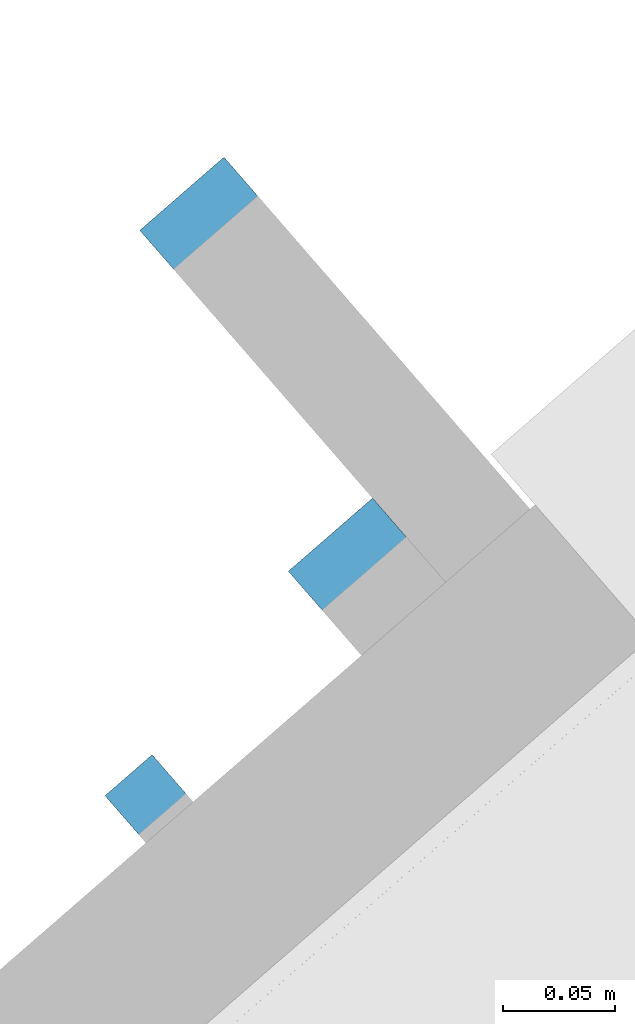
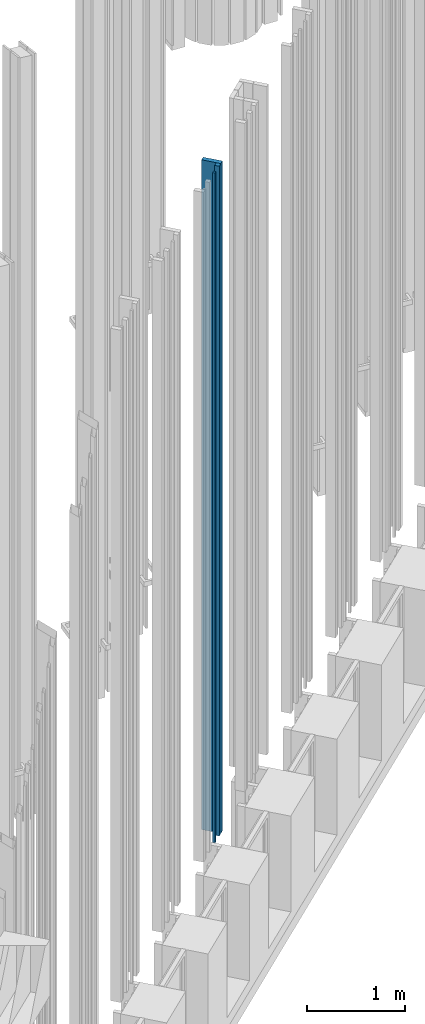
# One storey, part 235 of 390: 3 walls.
"""IFC2X3 building model written with IfcOpenShell, lengths in millimetres."""

import ifcopenshell
import ifcopenshell.guid

model = None  # the IFC model being written
_history = None  # IfcOwnerHistory: only IFC2X3 demands one
_inside = {}  # id of a spatial element -> (the spatial element, [elements in it])
_under = {}  # id of a project, library or spatial element -> (it, [spatial elements below it])
_declared = {}  # id of a project -> (the project, [libraries it declares])
_typed = {}  # id of a type object -> (the type object, [elements of that type])
_made_of = {}  # id of a material, layer set ... -> (it, [elements and type objects made of it])


def new_model(schema):
    """Start an empty IFC model of exactly this schema.

    Asked for "IFC4X3", IfcOpenShell would pick the latest addendum, in which some entities
    have other attributes; the version numbers below select the first issue.
    IFC2X3 requires an IfcOwnerHistory on every rooted entity: one is made here for all.
    """
    global model, _history
    if schema == "IFC4X3":
        model = ifcopenshell.file(schema_version=(4, 3, 0, 0))
    else:
        model = ifcopenshell.file(schema=schema)
    _inside.clear()
    _under.clear()
    _declared.clear()
    _typed.clear()
    _made_of.clear()
    _history = None
    if model.schema == "IFC2X3":
        org = make("IfcOrganization", Name="unknown")
        user = make(
            "IfcPersonAndOrganization",
            ThePerson=make("IfcPerson", FamilyName="unknown"),
            TheOrganization=org,
        )
        app = make(
            "IfcApplication",
            ApplicationDeveloper=org,
            Version="unknown",
            ApplicationFullName="unknown",
            ApplicationIdentifier="unknown",
        )
        _history = make(
            "IfcOwnerHistory",
            OwningUser=user,
            OwningApplication=app,
            ChangeAction="ADDED",
            CreationDate=0,
        )
    return model


def make(cls, **values):
    """One entity of the class cls with the attributes given. An attribute that is None is left unset."""
    return model.create_entity(
        cls, **{name: value for name, value in values.items() if value is not None}
    )


def entity(cls, *values):
    """Any entity or typed value of the class cls, its attributes in the order of the schema. None: left unset."""
    e = model.create_entity(cls)
    for i, value in enumerate(values):
        if value is not None:
            e[i] = value
    return e


def rooted(cls, **values):
    """An entity with a GlobalId (a new one), such as an element, a storey or a relation."""
    return make(cls, GlobalId=ifcopenshell.guid.new(), OwnerHistory=_history, **values)


def si_unit(unit_type, name, prefix=None):
    """IfcSIUnit, for example si_unit("LENGTHUNIT", "METRE", prefix="MILLI")."""
    return make("IfcSIUnit", UnitType=unit_type, Prefix=prefix, Name=name)


def converted_unit(unit_type, name, factor, base, dimensions=None, offset=None):
    """IfcConversionBasedUnit, such as the inch: factor (a typed value) times the base unit."""
    return make(
        "IfcConversionBasedUnit"
        if offset is None
        else "IfcConversionBasedUnitWithOffset",
        ConversionOffset=offset,
        Dimensions=None
        if dimensions is None
        else entity("IfcDimensionalExponents", *dimensions),
        UnitType=unit_type,
        Name=name,
        ConversionFactor=make(
            "IfcMeasureWithUnit", ValueComponent=factor, UnitComponent=base
        ),
    )


def derived_unit(unit_type, elements):
    """IfcDerivedUnit: a product of units, each with its exponent."""
    return make(
        "IfcDerivedUnit",
        Elements=[
            make("IfcDerivedUnitElement", Unit=unit, Exponent=power)
            for unit, power in elements
        ],
        UnitType=unit_type,
    )


def money_unit(currency):
    """IfcMonetaryUnit."""
    return make("IfcMonetaryUnit", Currency=currency)


def assignment(units):
    """IfcUnitAssignment: the units of a project."""
    return None if units is None else make("IfcUnitAssignment", Units=units)


def point(xyz):
    """IfcCartesianPoint."""
    return None if xyz is None else make("IfcCartesianPoint", Coordinates=xyz)


def direction(xyz):
    """IfcDirection."""
    return None if xyz is None else make("IfcDirection", DirectionRatios=xyz)


def frame(location, z_axis=None, x_axis=None):
    """IfcAxis2Placement3D, a coordinate frame: its origin and axes. An axis left out is left unset."""
    return make(
        "IfcAxis2Placement3D",
        Location=point(location),
        Axis=direction(z_axis),
        RefDirection=direction(x_axis),
    )


def origin_with_axes():
    """The frame at (0, 0, 0) with the z axis (0, 0, 1) and the x axis (1, 0, 0) written out."""
    return frame((0.0, 0.0, 0.0), z_axis=(0.0, 0.0, 1.0), x_axis=(1.0, 0.0, 0.0))


def place(relative_to, where):
    """IfcLocalPlacement: puts the frame where relative to a parent placement (None: the world)."""
    return make(
        "IfcLocalPlacement", PlacementRelTo=relative_to, RelativePlacement=where
    )


def context(
    kind, dimensions, precision=None, world=None, true_north=None, identifier=None
):
    """IfcGeometricRepresentationContext, for example the 3D "Model" context."""
    return make(
        "IfcGeometricRepresentationContext",
        ContextIdentifier=identifier,
        ContextType=kind,
        CoordinateSpaceDimension=dimensions,
        Precision=precision,
        WorldCoordinateSystem=world,
        TrueNorth=true_north,
    )


def subcontext(parent, identifier, kind, view, scale=None):
    """IfcGeometricRepresentationSubContext, for example "Body" below "Model"."""
    return make(
        "IfcGeometricRepresentationSubContext",
        ContextIdentifier=identifier,
        ContextType=kind,
        ParentContext=parent,
        TargetScale=scale,
        TargetView=view,
    )


def project(units=None, contexts=None):
    """IfcProject with its units and contexts."""
    return rooted(
        "IfcProject",
        Name="project",
        RepresentationContexts=contexts,
        UnitsInContext=assignment(units),
    )


def spatial(cls, under=None, at=None, **own):
    """A site, building, storey or space (cls), placed at a placement, below another one or the project."""
    s = rooted(cls, ObjectPlacement=at, **own)
    if under is not None:
        _under.setdefault(under.id(), (under, []))[1].append(s)
    return s


def faces_of(points, faces, orient=None, outer=None):
    """IfcFace entities. A face is a list of loops; a loop is a list of indices into points, from 0.

    orient and outer hold one flag for each loop. By default every Orientation is true, the
    first loop of a face is its IfcFaceOuterBound and the others are IfcFaceBound.
    """
    made = []
    for i, loops in enumerate(faces):
        bounds = []
        for j, loop in enumerate(loops):
            is_outer = j == 0 if outer is None else outer[i][j]
            bounds.append(
                make(
                    "IfcFaceOuterBound" if is_outer else "IfcFaceBound",
                    Bound=make("IfcPolyLoop", Polygon=[points[k] for k in loop]),
                    Orientation=True if orient is None else orient[i][j],
                )
            )
        made.append(make("IfcFace", Bounds=bounds))
    return made


def faceted_brep(points, faces, orient=None, outer=None, voids=None):
    """IfcFacetedBrep: a solid bounded by flat faces; with voids (closed shells), ...WithVoids."""
    shared = [point(p) for p in points]
    hull = make("IfcClosedShell", CfsFaces=faces_of(shared, faces, orient, outer))
    if voids is None:
        return make("IfcFacetedBrep", Outer=hull)
    return make(
        "IfcFacetedBrepWithVoids",
        Outer=hull,
        Voids=[
            make(cls, CfsFaces=faces_of(shared, fs, o, b)) for cls, fs, o, b in voids
        ],
    )


def shape(context_of_items, identifier, shape_type, items):
    """IfcShapeRepresentation: the items that make up one representation, for example the "Body"."""
    return make(
        "IfcShapeRepresentation",
        ContextOfItems=context_of_items,
        RepresentationIdentifier=identifier,
        RepresentationType=shape_type,
        Items=items,
    )


def material(Name=None, Category=None):
    """IfcMaterial."""
    return make("IfcMaterial", Name=Name, Category=Category)


def made_of(thing, what):
    """Note that an element or type object is made of a material, layer set ...; save() writes the relation."""
    if what is not None:
        _made_of.setdefault(what.id(), (what, []))[1].append(thing)
    return thing


def type_object(cls, material=None, **own):
    """A type object (cls), such as IfcWallType, which elements share."""
    return made_of(rooted(cls, **own), material)


def element(
    cls,
    number,
    at=None,
    inside=None,
    cuts=None,
    type_object=None,
    material=None,
    context=None,
    identifier="Body",
    shape_type=None,
    held_by="IfcProductDefinitionShape",
    body=None,
    shapes=None,
    **own,
):
    """One element of the class cls, such as IfcWall. Its Tag is "e" and its number.

    at: its placement. inside: the storey or other place that contains it. cuts: it is an
    opening in that element (IfcRelVoidsElement). A single representation is given by context,
    identifier, shape_type and body (its items); several are given by shapes. held_by: the class
    of the entity that holds the representations. save() writes the other relations.
    """
    e = rooted(cls, Tag="e%d" % number, ObjectPlacement=at, **own)
    if body is not None:
        shapes = [shape(context, identifier, shape_type, body)]
    if shapes is not None:
        e.Representation = make(held_by, Representations=shapes)
    if inside is not None:
        _inside.setdefault(inside.id(), (inside, []))[1].append(e)
    if cuts is not None:
        rooted(
            "IfcRelVoidsElement", RelatingBuildingElement=cuts, RelatedOpeningElement=e
        )
    if type_object is not None:
        _typed.setdefault(type_object.id(), (type_object, []))[1].append(e)
    return made_of(e, material)


def aggregate(whole, parts):
    """IfcRelAggregates: a whole, such as a stair, and the parts it consists of."""
    return rooted("IfcRelAggregates", RelatingObject=whole, RelatedObjects=parts)


def save(model, path):
    """Write the relations noted so far, then the file.

    IfcRelAggregates (storeys below a building ...), IfcRelContainedInSpatialStructure (elements
    in a storey), IfcRelDefinesByType, IfcRelAssociatesMaterial and IfcRelDeclares: one each for
    every whole, place, type object, material and project.
    """
    for whole, parts in _under.values():
        aggregate(whole, parts)
    for where, things in _inside.values():
        rooted(
            "IfcRelContainedInSpatialStructure",
            RelatedElements=things,
            RelatingStructure=where,
        )
    for kind, things in _typed.values():
        rooted("IfcRelDefinesByType", RelatedObjects=things, RelatingType=kind)
    for what, things in _made_of.values():
        rooted("IfcRelAssociatesMaterial", RelatedObjects=things, RelatingMaterial=what)
    for by, libraries in _declared.values():
        rooted("IfcRelDeclares", RelatingContext=by, RelatedDefinitions=libraries)
    model.write(path)


model = new_model("IFC2X3")

# Units and contexts
model_context = context("Model", 3, precision=1e-05, world=origin_with_axes(), true_north=direction((0.0, 1.0)))
body_context = subcontext(model_context, "Body", "Model", "MODEL_VIEW")
ifc_project = project(units=[si_unit("LENGTHUNIT", "METRE", prefix="MILLI"), si_unit("AREAUNIT", "SQUARE_METRE"), si_unit("VOLUMEUNIT", "CUBIC_METRE"), converted_unit("PLANEANGLEUNIT", "DEGREE", entity("IfcPlaneAngleMeasure", 0.0174532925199), si_unit("PLANEANGLEUNIT", "RADIAN"), dimensions=[0, 0, 0, 0, 0, 0, 0]), si_unit("SOLIDANGLEUNIT", "STERADIAN"), money_unit("EUR"), converted_unit("TIMEUNIT", "Year", entity("IfcTimeMeasure", 31556926.0), si_unit("TIMEUNIT", "SECOND"), dimensions=[0, 0, 1, 0, 0, 0, 0]), si_unit("MASSUNIT", "GRAM", prefix="KILO"), si_unit("THERMODYNAMICTEMPERATUREUNIT", "DEGREE_CELSIUS"), si_unit("LUMINOUSINTENSITYUNIT", "LUMEN"), si_unit("ENERGYUNIT", "JOULE", prefix="MEGA"), derived_unit("THERMALCONDUCTANCEUNIT", [(si_unit("POWERUNIT", "WATT"), 1), (si_unit("LENGTHUNIT", "METRE"), -1), (si_unit("THERMODYNAMICTEMPERATUREUNIT", "KELVIN"), -1)]), derived_unit("SPECIFICHEATCAPACITYUNIT", [(si_unit("ENERGYUNIT", "JOULE"), 1), (si_unit("MASSUNIT", "GRAM", prefix="KILO"), -1), (si_unit("THERMODYNAMICTEMPERATUREUNIT", "KELVIN"), -1)]), derived_unit("MASSDENSITYUNIT", [(si_unit("MASSUNIT", "GRAM", prefix="KILO"), 1), (si_unit("VOLUMEUNIT", "CUBIC_METRE"), -1)])], contexts=[model_context])

# Site, building, storey
site_placement = place(None, origin_with_axes())
site = spatial("IfcSite", under=ifc_project, at=site_placement, Name="Site", CompositionType="ELEMENT")
building_placement = place(site_placement, origin_with_axes())
building = spatial("IfcBuilding", under=site, at=building_placement, Name="Building", CompositionType="ELEMENT")
storey_placement = place(building_placement, origin_with_axes())
storey = spatial("IfcBuildingStorey", under=building, at=storey_placement, Name="1 korrus", CompositionType="ELEMENT", Elevation=0.0)

# Walls
ifc_material = material(Name="Site specified")
wall_type = type_object("IfcWallType", Name="Puitfassaadi ribistik", PredefinedType="NOTDEFINED")
wall_1_placement = place(storey_placement, frame((141358.621036, 93022.9288634, 1500.30748856), z_axis=(0.0, 0.0, 1.0), x_axis=(0.754709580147, 0.656059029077, 0.0)))
element("IfcWall", 1, at=wall_1_placement, inside=storey, type_object=wall_type, material=ifc_material, Name="Site specified", context=body_context, shape_type="Brep", body=[
    faceted_brep([(25.0, 104.5, 8364.69251144), (25.0, 104.5, 0.0), (-25.0, 104.5, 0.0), (-25.0, 104.5, 8364.69251144), (25.0, -104.5, 8364.69251144), (25.0, -104.5, 0.0), (-25.0, -104.5, 0.0), (-25.0, -104.5, 8364.69251144)], [[[0, 1, 2, 3]], [[4, 5, 1, 0]], [[2, 1, 5, 6]], [[3, 2, 6, 7]], [[4, 0, 3, 7]], [[7, 6, 5, 4]]]),
])
wall_2_placement = place(storey_placement, frame((141275.354267, 92830.6324899, 1500.30748856), z_axis=(0.0, 0.0, 1.0), x_axis=(0.754709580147, 0.656059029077, 0.0)))
element("IfcWall", 2, at=wall_2_placement, inside=storey, type_object=wall_type, material=ifc_material, Name="Site specified", context=body_context, shape_type="Brep", body=[
    faceted_brep([(14.0, 14.0, 8364.69251144), (14.0, 14.0, 0.0), (-14.0, 14.0, 0.0), (-14.0, 14.0, 8364.69251144), (14.0, -14.0, 8364.69251144), (14.0, -14.0, 0.0), (-14.0, -14.0, 0.0), (-14.0, -14.0, 8364.69251144)], [[[0, 1, 2, 3]], [[4, 5, 1, 0]], [[2, 1, 5, 6]], [[3, 2, 6, 7]], [[4, 0, 3, 7]], [[7, 6, 5, 4]]]),
])
wall_3_placement = place(storey_placement, frame((141373.04225, 92930.1265004, 1500.30748856), z_axis=(0.0, 0.0, 1.0), x_axis=(0.754709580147, 0.656059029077, 0.0)))
element("IfcWall", 3, at=wall_3_placement, inside=storey, type_object=wall_type, material=ifc_material, Name="Site specified", context=body_context, shape_type="Brep", body=[
    faceted_brep([(25.0, 25.0, 8364.69251144), (25.0, 25.0, 0.0), (-25.0, 25.0, 0.0), (-25.0, 25.0, 8364.69251144), (25.0, -25.0, 8364.69251144), (25.0, -25.0, 0.0), (-25.0, -25.0, 0.0), (-25.0, -25.0, 8364.69251144)], [[[0, 1, 2, 3]], [[4, 5, 1, 0]], [[2, 1, 5, 6]], [[3, 2, 6, 7]], [[4, 0, 3, 7]], [[7, 6, 5, 4]]]),
])

save(model, "model.ifc")
